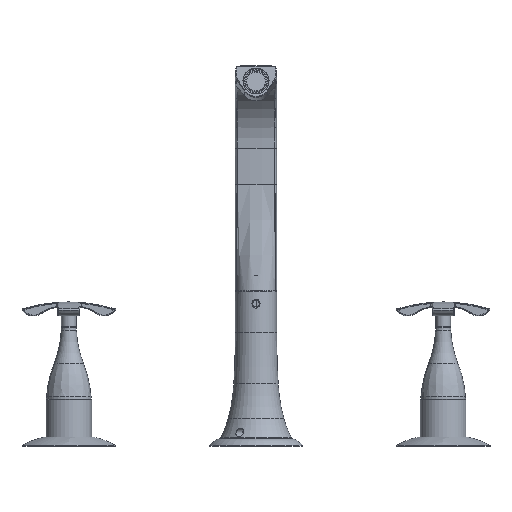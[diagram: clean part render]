
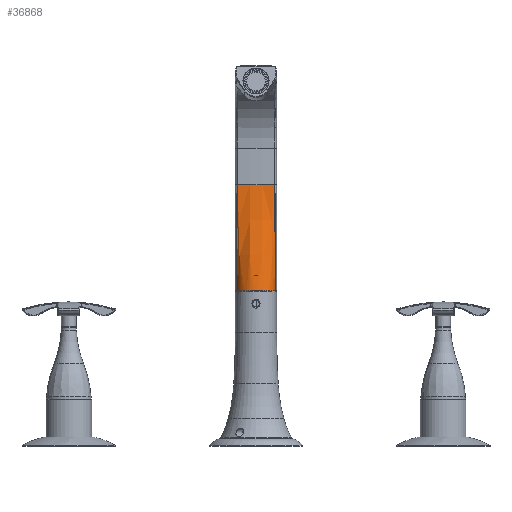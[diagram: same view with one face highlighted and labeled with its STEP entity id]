
A CAD part, front view. The second image highlights one B-rep face of the part: STEP entity #36868.
In plain terms, the highlighted free-form (B-spline) face has degree [3, 3] with [4, 11] control points.
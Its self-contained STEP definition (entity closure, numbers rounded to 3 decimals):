
#33622=CARTESIAN_POINT('',(11.858,-4.292,
200.35));
#33623=CARTESIAN_POINT('',(11.858,-4.292,
196.245));
#33624=CARTESIAN_POINT('',(11.904,-4.335,
187.811));
#33625=CARTESIAN_POINT('',(12.164,-4.475,
174.466));
#33626=CARTESIAN_POINT('',(12.462,-4.411,
160.505));
#33627=CARTESIAN_POINT('',(12.541,-4.28,
147.335));
#33628=CARTESIAN_POINT('',(12.55,-4.25,
137.32));
#33629=CARTESIAN_POINT('',(12.55,-4.25,132.15));
#33631=CARTESIAN_POINT('',(12.55,-4.25,132.15));
#33632=CARTESIAN_POINT('',(12.109,-5.551,132.15));
#33633=CARTESIAN_POINT('',(10.82,-8.015,132.15));
#33634=CARTESIAN_POINT('',(7.847,-10.942,132.15));
#33635=CARTESIAN_POINT('',(4.121,-12.819,132.15));
#33636=CARTESIAN_POINT('',(0.,-13.465,132.15));
#33637=CARTESIAN_POINT('',(-4.121,-12.819,132.15));
#33638=CARTESIAN_POINT('',(-7.847,-10.942,132.15));
#33639=CARTESIAN_POINT('',(-10.82,-8.015,132.15));
#33640=CARTESIAN_POINT('',(-12.109,-5.551,132.15));
#33641=CARTESIAN_POINT('',(-12.55,-4.25,132.15));
#33643=CARTESIAN_POINT('',(-12.55,-4.25,132.15));
#33644=CARTESIAN_POINT('',(-12.55,-4.25,
137.319));
#33645=CARTESIAN_POINT('',(-12.541,-4.28,
147.334));
#33646=CARTESIAN_POINT('',(-12.462,-4.411,
160.509));
#33647=CARTESIAN_POINT('',(-12.164,-4.475,
174.464));
#33648=CARTESIAN_POINT('',(-11.904,-4.335,
187.812));
#33649=CARTESIAN_POINT('',(-11.858,-4.292,
196.245));
#33650=CARTESIAN_POINT('',(-11.858,-4.292,
200.35));
#33652=CARTESIAN_POINT('',(0.,195.356,200.35));
#33653=DIRECTION('',(0.,0.,1.));
#33654=DIRECTION('',(-0.059,-0.998,0.));
#33655=AXIS2_PLACEMENT_3D('',#33652,#33653,#33654);
#34481=VERTEX_POINT('',#33622);
#34482=VERTEX_POINT('',#33629);
#34494=CARTESIAN_POINT('',(-11.858,-4.292,200.35));
#34495=VERTEX_POINT('',#34494);
#34500=VERTEX_POINT('',#33641);
#36815=CARTESIAN_POINT('',(13.056,-4.217,
201.032));
#36816=CARTESIAN_POINT('',(11.837,-4.297,
201.032));
#36817=CARTESIAN_POINT('',(9.572,-4.425,
201.033));
#36818=CARTESIAN_POINT('',(6.265,-4.556,
201.035));
#36819=CARTESIAN_POINT('',(3.131,-4.63,
201.037));
#36820=CARTESIAN_POINT('',(0.,-4.655,
201.038));
#36821=CARTESIAN_POINT('',(-3.131,-4.63,
201.037));
#36822=CARTESIAN_POINT('',(-6.265,-4.556,
201.035));
#36823=CARTESIAN_POINT('',(-9.572,-4.425,
201.033));
#36824=CARTESIAN_POINT('',(-11.837,-4.297,
201.032));
#36825=CARTESIAN_POINT('',(-13.056,-4.217,
201.032));
#36826=CARTESIAN_POINT('',(12.969,-4.233,
177.843));
#36827=CARTESIAN_POINT('',(11.971,-4.275,
177.848));
#36828=CARTESIAN_POINT('',(9.962,-4.347,
177.823));
#36829=CARTESIAN_POINT('',(6.697,-4.42,
177.743));
#36830=CARTESIAN_POINT('',(3.399,-4.461,
177.673));
#36831=CARTESIAN_POINT('',(0.,-4.474,
177.645));
#36832=CARTESIAN_POINT('',(-3.399,-4.461,
177.673));
#36833=CARTESIAN_POINT('',(-6.697,-4.42,
177.743));
#36834=CARTESIAN_POINT('',(-9.962,-4.347,
177.823));
#36835=CARTESIAN_POINT('',(-11.971,-4.275,
177.848));
#36836=CARTESIAN_POINT('',(-12.969,-4.233,
177.843));
#36837=CARTESIAN_POINT('',(12.696,-3.769,
154.657));
#36838=CARTESIAN_POINT('',(12.37,-4.913,
154.654));
#36839=CARTESIAN_POINT('',(11.436,-7.239,
154.668));
#36840=CARTESIAN_POINT('',(8.639,-10.539,
154.744));
#36841=CARTESIAN_POINT('',(4.716,-12.854,
154.823));
#36842=CARTESIAN_POINT('',(0.,-13.71,
154.857));
#36843=CARTESIAN_POINT('',(-4.716,-12.854,
154.823));
#36844=CARTESIAN_POINT('',(-8.639,-10.539,
154.744));
#36845=CARTESIAN_POINT('',(-11.436,-7.239,
154.668));
#36846=CARTESIAN_POINT('',(-12.37,-4.913,
154.654));
#36847=CARTESIAN_POINT('',(-12.696,-3.769,
154.657));
#36848=CARTESIAN_POINT('',(12.748,-3.613,
131.468));
#36849=CARTESIAN_POINT('',(12.31,-5.159,
131.468));
#36850=CARTESIAN_POINT('',(10.966,-7.878,
131.467));
#36851=CARTESIAN_POINT('',(7.824,-10.956,
131.465));
#36852=CARTESIAN_POINT('',(4.104,-12.821,
131.463));
#36853=CARTESIAN_POINT('',(0.,-13.461,
131.462));
#36854=CARTESIAN_POINT('',(-4.104,-12.821,
131.463));
#36855=CARTESIAN_POINT('',(-7.824,-10.956,
131.465));
#36856=CARTESIAN_POINT('',(-10.966,-7.878,
131.467));
#36857=CARTESIAN_POINT('',(-12.31,-5.159,
131.468));
#36858=CARTESIAN_POINT('',(-12.748,-3.613,
131.468));
#36859=B_SPLINE_SURFACE_WITH_KNOTS('',3,3,((#36815,#36816,#36817,#36818,#36819,
#36820,#36821,#36822,#36823,#36824,#36825),(#36826,#36827,#36828,#36829,#36830,
#36831,#36832,#36833,#36834,#36835,#36836),(#36837,#36838,#36839,#36840,#36841,
#36842,#36843,#36844,#36845,#36846,#36847),(#36848,#36849,#36850,#36851,#36852,
#36853,#36854,#36855,#36856,#36857,#36858)),.UNSPECIFIED.,.F.,.F.,.F.,(4,4),(4,
1,1,1,1,1,1,1,4),(-0.01,1.01),(-0.02,
0.125,0.25,0.375,0.5,0.625,0.75,0.875,1.02),
.UNSPECIFIED.);
#36861=ORIENTED_EDGE('',*,*,#36860,.T.);
#36863=ORIENTED_EDGE('',*,*,#36862,.T.);
#36864=ORIENTED_EDGE('',*,*,#36316,.T.);
#36865=ORIENTED_EDGE('',*,*,#36808,.T.);
#36866=EDGE_LOOP('',(#36861,#36863,#36864,#36865));
#36867=FACE_OUTER_BOUND('',#36866,.F.);
#36868=ADVANCED_FACE('',(#36867),#36859,.F.);
#33630=B_SPLINE_CURVE_WITH_KNOTS('',3,(#33622,#33623,#33624,#33625,#33626,
#33627,#33628,#33629),.UNSPECIFIED.,.F.,.F.,(4,1,1,1,1,4),(0.,0.2,0.4,
0.6,0.8,1.),.UNSPECIFIED.);
#33642=B_SPLINE_CURVE_WITH_KNOTS('',3,(#33631,#33632,#33633,#33634,#33635,
#33636,#33637,#33638,#33639,#33640,#33641),.UNSPECIFIED.,.F.,.F.,(4,1,1,1,1,1,1,
1,4),(0.,0.125,0.25,0.375,0.5,0.625,0.75,0.875,1.),
.UNSPECIFIED.);
#33651=B_SPLINE_CURVE_WITH_KNOTS('',3,(#33643,#33644,#33645,#33646,#33647,
#33648,#33649,#33650),.UNSPECIFIED.,.F.,.F.,(4,1,1,1,1,4),(0.,0.2,0.4,
0.6,0.8,1.),.UNSPECIFIED.);
#33656=CIRCLE('',#33655,200.);
#36316=EDGE_CURVE('',#34500,#34495,#33651,.T.);
#36808=EDGE_CURVE('',#34495,#34481,#33656,.T.);
#36860=EDGE_CURVE('',#34481,#34482,#33630,.T.);
#36862=EDGE_CURVE('',#34482,#34500,#33642,.T.);
